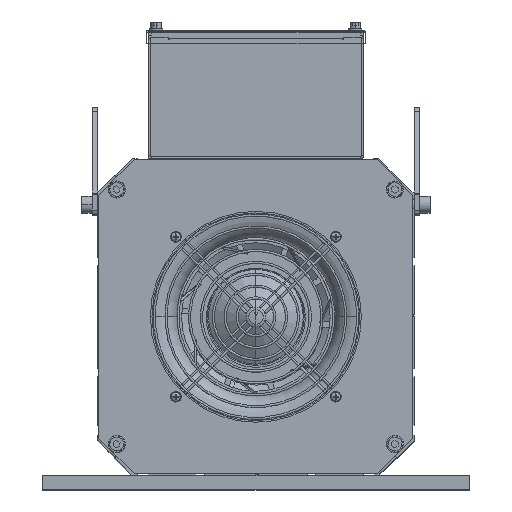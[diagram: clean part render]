
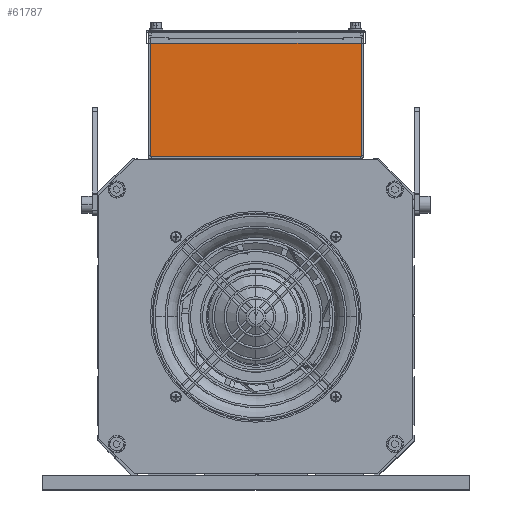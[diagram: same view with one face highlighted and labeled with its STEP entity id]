
A CAD part, top view. The second image highlights one B-rep face of the part: STEP entity #61787.
In plain terms, the highlighted planar face has unit normal (0, 0, 1).
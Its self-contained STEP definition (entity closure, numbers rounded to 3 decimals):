
#3078 = VECTOR ( 'NONE', #6473, 1000. ) ;
#5489 = CARTESIAN_POINT ( 'NONE',  ( -81.5, 260., 25. ) ) ;
#6473 = DIRECTION ( 'NONE',  ( 0., -1., 0. ) ) ;
#8144 = VECTOR ( 'NONE', #14388, 1000. ) ;
#8190 = VERTEX_POINT ( 'NONE', #5489 ) ;
#8301 = ORIENTED_EDGE ( 'NONE', *, *, #38870, .T. ) ;
#8830 = ORIENTED_EDGE ( 'NONE', *, *, #84806, .T. ) ;
#8921 = LINE ( 'NONE', #40878, #82096 ) ;
#10589 = VERTEX_POINT ( 'NONE', #17411 ) ;
#10891 = ORIENTED_EDGE ( 'NONE', *, *, #43653, .T. ) ;
#11681 = DIRECTION ( 'NONE',  ( -1., 0., 0. ) ) ;
#11729 = CARTESIAN_POINT ( 'NONE',  ( 81.5, 258., 25. ) ) ;
#12087 = EDGE_CURVE ( 'NONE', #81959, #28634, #38073, .T. ) ;
#12347 = LINE ( 'NONE', #64642, #30810 ) ;
#12531 = LINE ( 'NONE', #18883, #58916 ) ;
#12952 = CARTESIAN_POINT ( 'NONE',  ( 80.5, 258., 25. ) ) ;
#14388 = DIRECTION ( 'NONE',  ( -1., 0., 0. ) ) ;
#14779 = EDGE_CURVE ( 'NONE', #10589, #66643, #12531, .T. ) ;
#15300 = VECTOR ( 'NONE', #65041, 1000. ) ;
#15563 = DIRECTION ( 'NONE',  ( 0., 1., 0. ) ) ;
#15629 = CARTESIAN_POINT ( 'NONE',  ( 80.5, 259., 25. ) ) ;
#16408 = LINE ( 'NONE', #63379, #46358 ) ;
#17166 = FACE_OUTER_BOUND ( 'NONE', #55625, .T. ) ;
#17411 = CARTESIAN_POINT ( 'NONE',  ( 98., 260., 25. ) ) ;
#18445 = LINE ( 'NONE', #48436, #46284 ) ;
#18883 = CARTESIAN_POINT ( 'NONE',  ( 98., 149., 25. ) ) ;
#19593 = DIRECTION ( 'NONE',  ( -1., 0., 0. ) ) ;
#20539 = CARTESIAN_POINT ( 'NONE',  ( -80.5, 260., 25. ) ) ;
#21468 = DIRECTION ( 'NONE',  ( 0., 0., 1. ) ) ;
#22038 = EDGE_CURVE ( 'NONE', #75844, #25809, #8921, .T. ) ;
#22456 = VECTOR ( 'NONE', #53765, 1000. ) ;
#23283 = CARTESIAN_POINT ( 'NONE',  ( 81.5, 260., 25. ) ) ;
#23540 = LINE ( 'NONE', #47232, #8144 ) ;
#24687 = CARTESIAN_POINT ( 'NONE',  ( -98., 149., 25. ) ) ;
#25809 = VERTEX_POINT ( 'NONE', #15629 ) ;
#26056 = CARTESIAN_POINT ( 'NONE',  ( 98., 260., 25. ) ) ;
#26821 = CARTESIAN_POINT ( 'NONE',  ( 81.5, 260., 25. ) ) ;
#27589 = DIRECTION ( 'NONE',  ( 0., 1., 0. ) ) ;
#28373 = PLANE ( 'NONE',  #51471 ) ;
#28634 = VERTEX_POINT ( 'NONE', #11729 ) ;
#29102 = VECTOR ( 'NONE', #83010, 1000. ) ;
#30773 = CARTESIAN_POINT ( 'NONE',  ( 98., 260., 25. ) ) ;
#30810 = VECTOR ( 'NONE', #19593, 1000. ) ;
#30903 = VERTEX_POINT ( 'NONE', #57081 ) ;
#33551 = ORIENTED_EDGE ( 'NONE', *, *, #14779, .F. ) ;
#33887 = VECTOR ( 'NONE', #73914, 1000. ) ;
#34177 = DIRECTION ( 'NONE',  ( 1., 0., 0. ) ) ;
#34520 = ORIENTED_EDGE ( 'NONE', *, *, #58966, .F. ) ;
#37280 = CARTESIAN_POINT ( 'NONE',  ( 98., 149., 25. ) ) ;
#37659 = ORIENTED_EDGE ( 'NONE', *, *, #57982, .F. ) ;
#38073 = LINE ( 'NONE', #26821, #3078 ) ;
#38470 = DIRECTION ( 'NONE',  ( 0., -1., 0. ) ) ;
#38769 = EDGE_CURVE ( 'NONE', #25809, #43810, #12347, .T. ) ;
#38870 = EDGE_CURVE ( 'NONE', #30903, #8190, #18445, .T. ) ;
#40878 = CARTESIAN_POINT ( 'NONE',  ( 80.5, 260., 25. ) ) ;
#41957 = LINE ( 'NONE', #43370, #56445 ) ;
#43370 = CARTESIAN_POINT ( 'NONE',  ( 98., 149., 25. ) ) ;
#43653 = EDGE_CURVE ( 'NONE', #71439, #30903, #75152, .T. ) ;
#43810 = VERTEX_POINT ( 'NONE', #56319 ) ;
#43851 = EDGE_CURVE ( 'NONE', #66643, #50712, #41957, .T. ) ;
#46284 = VECTOR ( 'NONE', #15563, 1000. ) ;
#46358 = VECTOR ( 'NONE', #60425, 1000. ) ;
#47232 = CARTESIAN_POINT ( 'NONE',  ( -98., 258., 25. ) ) ;
#47986 = CARTESIAN_POINT ( 'NONE',  ( -98., 258., 25. ) ) ;
#48436 = CARTESIAN_POINT ( 'NONE',  ( -81.5, 260., 25. ) ) ;
#50712 = VERTEX_POINT ( 'NONE', #24687 ) ;
#50714 = VERTEX_POINT ( 'NONE', #66501 ) ;
#51471 = AXIS2_PLACEMENT_3D ( 'NONE', #67616, #21468, #34177 ) ;
#53765 = DIRECTION ( 'NONE',  ( -1., 0., 0. ) ) ;
#53944 = ORIENTED_EDGE ( 'NONE', *, *, #22038, .T. ) ;
#55625 = EDGE_LOOP ( 'NONE', ( #34520, #57679, #78284, #53944, #84270, #8830, #10891, #8301, #37659, #62012, #71803, #33551 ) ) ;
#56319 = CARTESIAN_POINT ( 'NONE',  ( -80.5, 259., 25. ) ) ;
#56445 = VECTOR ( 'NONE', #11681, 1000. ) ;
#57081 = CARTESIAN_POINT ( 'NONE',  ( -81.5, 258., 25. ) ) ;
#57679 = ORIENTED_EDGE ( 'NONE', *, *, #12087, .T. ) ;
#57982 = EDGE_CURVE ( 'NONE', #50714, #8190, #79723, .T. ) ;
#58916 = VECTOR ( 'NONE', #38470, 1000. ) ;
#58966 = EDGE_CURVE ( 'NONE', #81959, #10589, #72149, .T. ) ;
#60425 = DIRECTION ( 'NONE',  ( 0., 1., 0. ) ) ;
#61691 = LINE ( 'NONE', #20539, #33887 ) ;
#61787 = ADVANCED_FACE ( 'NONE', ( #17166 ), #28373, .T. ) ;
#62012 = ORIENTED_EDGE ( 'NONE', *, *, #69217, .F. ) ;
#63379 = CARTESIAN_POINT ( 'NONE',  ( -98., 149., 25. ) ) ;
#64642 = CARTESIAN_POINT ( 'NONE',  ( 80.5, 259., 25. ) ) ;
#65041 = DIRECTION ( 'NONE',  ( 1., 0., 0. ) ) ;
#66501 = CARTESIAN_POINT ( 'NONE',  ( -98., 260., 25. ) ) ;
#66643 = VERTEX_POINT ( 'NONE', #37280 ) ;
#67616 = CARTESIAN_POINT ( 'NONE',  ( -98., 260., 25. ) ) ;
#69217 = EDGE_CURVE ( 'NONE', #50712, #50714, #16408, .T. ) ;
#71439 = VERTEX_POINT ( 'NONE', #76464 ) ;
#71803 = ORIENTED_EDGE ( 'NONE', *, *, #43851, .F. ) ;
#72149 = LINE ( 'NONE', #26056, #15300 ) ;
#73914 = DIRECTION ( 'NONE',  ( 0., -1., 0. ) ) ;
#75152 = LINE ( 'NONE', #47986, #22456 ) ;
#75844 = VERTEX_POINT ( 'NONE', #12952 ) ;
#76464 = CARTESIAN_POINT ( 'NONE',  ( -80.5, 258., 25. ) ) ;
#78284 = ORIENTED_EDGE ( 'NONE', *, *, #84726, .T. ) ;
#79723 = LINE ( 'NONE', #30773, #29102 ) ;
#81959 = VERTEX_POINT ( 'NONE', #23283 ) ;
#82096 = VECTOR ( 'NONE', #27589, 1000. ) ;
#83010 = DIRECTION ( 'NONE',  ( 1., 0., 0. ) ) ;
#84270 = ORIENTED_EDGE ( 'NONE', *, *, #38769, .T. ) ;
#84726 = EDGE_CURVE ( 'NONE', #28634, #75844, #23540, .T. ) ;
#84806 = EDGE_CURVE ( 'NONE', #43810, #71439, #61691, .T. ) ;
